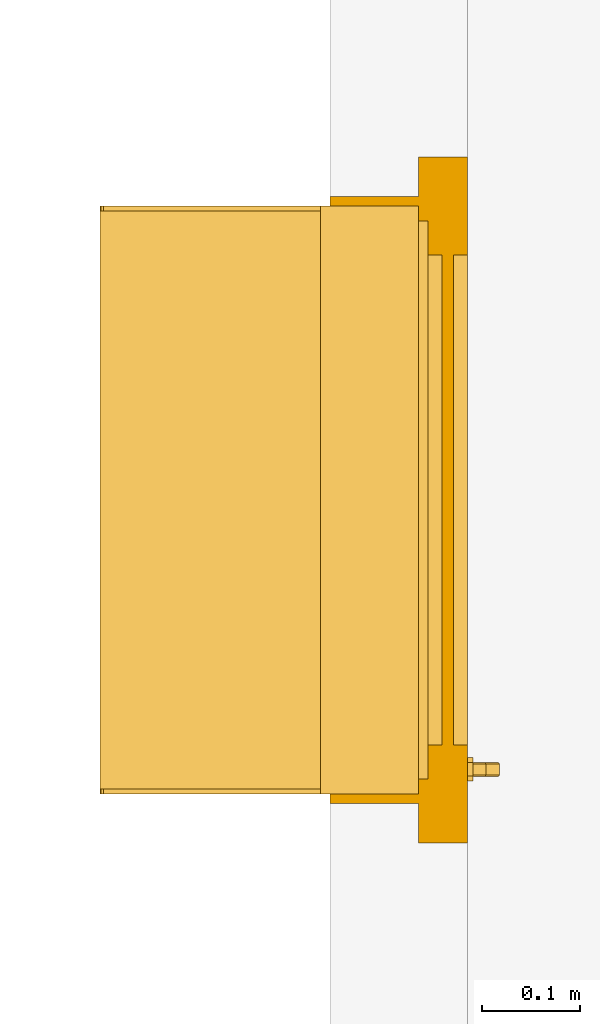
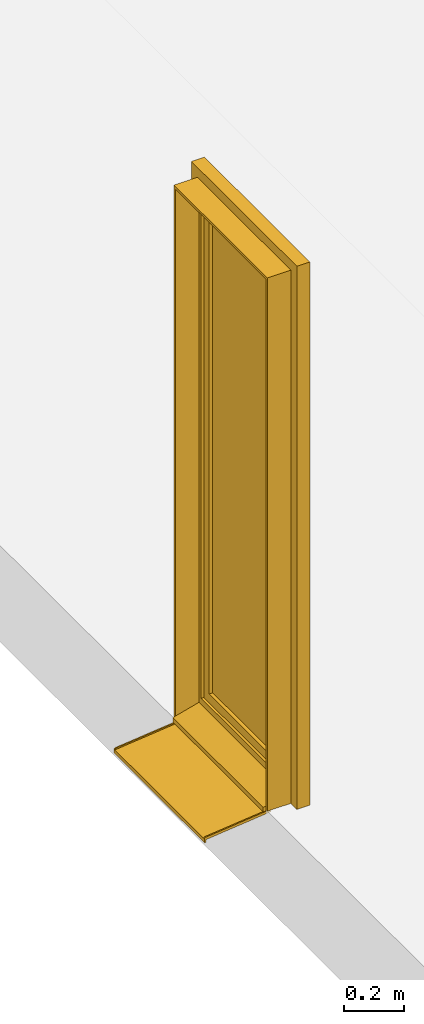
# One storey, part 7 of 7: 1 window.
"""IFC2X3 building model written with IfcOpenShell, lengths in centimetres."""

from ifc_helpers import new_model, entity, si_unit, converted_unit, derived_unit, direction, frame, origin, place, context, subcontext, project, spatial, faceted_brep, source, transform, mapped, material, material_list, type_object, type_shapes, element, save


model = new_model("IFC2X3")

# Units and contexts
model_context = context("Model", 3, precision=0.001, world=origin(), true_north=direction((6.123031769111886e-17, 1.0)))
body_context = subcontext(model_context, "Body", "Model", "MODEL_VIEW")
ifc_project = project(units=[si_unit("LENGTHUNIT", "METRE", prefix="CENTI"), si_unit("AREAUNIT", "SQUARE_METRE"), si_unit("VOLUMEUNIT", "CUBIC_METRE"), converted_unit("PLANEANGLEUNIT", "DEGREE", entity("IfcRatioMeasure", 0.017453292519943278), si_unit("PLANEANGLEUNIT", "RADIAN"), dimensions=[0, 0, 0, 0, 0, 0, 0]), si_unit("MASSUNIT", "GRAM", prefix="KILO"), derived_unit("MASSDENSITYUNIT", [(si_unit("MASSUNIT", "GRAM", prefix="KILO"), 1), (si_unit("LENGTHUNIT", "METRE"), -3)]), derived_unit("MOMENTOFINERTIAUNIT", [(si_unit("LENGTHUNIT", "METRE"), 4)]), si_unit("TIMEUNIT", "SECOND"), si_unit("FREQUENCYUNIT", "HERTZ"), si_unit("THERMODYNAMICTEMPERATUREUNIT", "DEGREE_CELSIUS"), derived_unit("THERMALTRANSMITTANCEUNIT", [(si_unit("MASSUNIT", "GRAM", prefix="KILO"), 1), (si_unit("THERMODYNAMICTEMPERATUREUNIT", "KELVIN"), -1), (si_unit("TIMEUNIT", "SECOND"), -3)]), derived_unit("THERMALCONDUCTANCEUNIT", [(si_unit("MASSUNIT", "GRAM", prefix="KILO"), 1), (si_unit("LENGTHUNIT", "METRE"), 1), (si_unit("THERMODYNAMICTEMPERATUREUNIT", "KELVIN"), -1), (si_unit("TIMEUNIT", "SECOND"), -3)]), derived_unit("VOLUMETRICFLOWRATEUNIT", [(si_unit("LENGTHUNIT", "METRE"), 3), (si_unit("TIMEUNIT", "SECOND"), -1)]), derived_unit("MASSFLOWRATEUNIT", [(si_unit("MASSUNIT", "GRAM", prefix="KILO"), 1), (si_unit("TIMEUNIT", "SECOND"), -1)]), derived_unit("ROTATIONALFREQUENCYUNIT", [(si_unit("TIMEUNIT", "SECOND"), -1)]), si_unit("ELECTRICCURRENTUNIT", "AMPERE"), si_unit("ELECTRICVOLTAGEUNIT", "VOLT"), si_unit("POWERUNIT", "WATT"), si_unit("FORCEUNIT", "NEWTON", prefix="KILO"), si_unit("ILLUMINANCEUNIT", "LUX"), si_unit("LUMINOUSFLUXUNIT", "LUMEN"), si_unit("LUMINOUSINTENSITYUNIT", "CANDELA"), derived_unit("USERDEFINED", [(si_unit("MASSUNIT", "GRAM", prefix="KILO"), -1), (si_unit("LENGTHUNIT", "METRE"), -2), (si_unit("TIMEUNIT", "SECOND"), 3), (si_unit("LUMINOUSFLUXUNIT", "LUMEN"), 1)]), derived_unit("USERDEFINED", [(si_unit("MASSUNIT", "GRAM", prefix="KILO"), 1), (si_unit("LENGTHUNIT", "METRE"), 3), (si_unit("TIMEUNIT", "SECOND"), -3), (si_unit("ELECTRICCURRENTUNIT", "AMPERE"), -2)]), derived_unit("USERDEFINED", [(si_unit("LENGTHUNIT", "METRE"), 2), (si_unit("TIMEUNIT", "SECOND"), -2)]), derived_unit("SOUNDPOWERUNIT", [(si_unit("MASSUNIT", "GRAM", prefix="KILO"), 1), (si_unit("LENGTHUNIT", "METRE"), 2), (si_unit("TIMEUNIT", "SECOND"), -3)]), derived_unit("SOUNDPRESSUREUNIT", [(si_unit("MASSUNIT", "GRAM", prefix="KILO"), 1), (si_unit("LENGTHUNIT", "METRE"), -1), (si_unit("TIMEUNIT", "SECOND"), -2)]), derived_unit("LINEARVELOCITYUNIT", [(si_unit("LENGTHUNIT", "METRE"), 1), (si_unit("TIMEUNIT", "SECOND"), -1)]), si_unit("PRESSUREUNIT", "PASCAL"), derived_unit("USERDEFINED", [(si_unit("LENGTHUNIT", "METRE"), -2), (si_unit("MASSUNIT", "GRAM", prefix="KILO"), 1), (si_unit("TIMEUNIT", "SECOND"), -2)]), derived_unit("LINEARFORCEUNIT", [(si_unit("MASSUNIT", "GRAM", prefix="KILO"), 1), (si_unit("LENGTHUNIT", "METRE"), 1), (si_unit("TIMEUNIT", "SECOND"), -2), (si_unit("LENGTHUNIT", "METRE"), -1)]), derived_unit("PLANARFORCEUNIT", [(si_unit("MASSUNIT", "GRAM", prefix="KILO"), 1), (si_unit("LENGTHUNIT", "METRE"), 1), (si_unit("TIMEUNIT", "SECOND"), -2), (si_unit("LENGTHUNIT", "METRE"), -2)]), derived_unit("SPECIFICHEATCAPACITYUNIT", [(si_unit("LENGTHUNIT", "METRE"), 2), (si_unit("TIMEUNIT", "SECOND"), -2), (si_unit("THERMODYNAMICTEMPERATUREUNIT", "KELVIN"), -1)]), derived_unit("VAPORPERMEABILITYUNIT", [(si_unit("TIMEUNIT", "SECOND"), 1), (si_unit("LENGTHUNIT", "METRE"), -1)]), derived_unit("DYNAMICVISCOSITYUNIT", [(si_unit("MASSUNIT", "GRAM", prefix="KILO"), 1), (si_unit("LENGTHUNIT", "METRE"), -1), (si_unit("TIMEUNIT", "SECOND"), -1)]), derived_unit("THERMALEXPANSIONCOEFFICIENTUNIT", [(si_unit("THERMODYNAMICTEMPERATUREUNIT", "KELVIN"), -1)])], contexts=[model_context])

# Site, building, storey
site_placement = place(None, origin())
site = spatial("IfcSite", under=ifc_project, at=site_placement, Name="Default", CompositionType="ELEMENT")
building_placement = place(site_placement, origin())
building = spatial("IfcBuilding", under=site, at=building_placement, CompositionType="ELEMENT")
storey_placement = place(building_placement, origin())
storey = spatial("IfcBuildingStorey", under=building, at=storey_placement, Name="1_Rez-de-chaussée", CompositionType="ELEMENT", Elevation=0.0)

# Window
ifc_material_1 = material(Name="Fenêtre - Poignée")
ifc_material_2 = material(Name="Fenêtre - Appui")
ifc_material_3 = material(Name="Fenêtre - Vitrage")
ifc_material_4 = material(Name="Fenêtre - Cadre")
ifc_material_list = material_list([ifc_material_1, ifc_material_2, ifc_material_3, ifc_material_4])
window_style = type_object("IfcWindowStyle", Name="1 Vantail - Droit:0.60 m x 2.15 m", ConstructionType="NOTDEFINED", OperationType="NOTDEFINED", ParameterTakesPrecedence=False, Sizeable=False, material=ifc_material_list)
shared_shape = source(origin(), body_context, "Body", "Brep", [
    faceted_brep([(8.064600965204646, -68.60000000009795, 69.58923009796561), (8.203392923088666, -68.60000000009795, 69.45043814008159), (8.203392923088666, -68.60000000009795, 68.31906729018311), (8.066769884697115, -68.60000000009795, 68.18244425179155), (6.933230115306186, -68.60000000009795, 68.18244425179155), (6.796607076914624, -68.60000000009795, 68.31906729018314), (6.796607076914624, -68.60000000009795, 69.45043814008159), (6.935399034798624, -68.60000000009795, 69.58923009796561), (8.064600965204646, -69.89135488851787, 69.58923009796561), (8.203392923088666, -69.83386537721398, 69.45043814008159), (8.203392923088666, -71.16460096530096, 68.11970255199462), (8.203392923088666, -71.16460096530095, 59.3858371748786), (8.203392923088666, -70.0332301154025, 59.3858371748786), (8.203392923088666, -70.03323011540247, 67.65107340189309), (8.203392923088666, -69.36523622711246, 68.31906729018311), (8.066769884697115, -69.30864511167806, 68.18244425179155), (6.933230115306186, -69.30864511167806, 68.18244425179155), (6.796607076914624, -69.36523622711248, 68.31906729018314), (6.796607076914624, -70.03323011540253, 67.6510734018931), (6.796607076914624, -70.03323011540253, 59.3858371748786), (6.796607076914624, -71.16460096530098, 59.3858371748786), (6.796607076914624, -71.16460096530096, 68.11970255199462), (6.796607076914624, -69.83386537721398, 69.45043814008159), (6.935399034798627, -69.89135488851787, 69.58923009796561), (8.064600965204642, -71.30339292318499, 68.17719206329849), (8.066769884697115, -69.89660707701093, 67.59448228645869), (6.933230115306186, -69.89660707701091, 67.59448228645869), (6.935399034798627, -71.30339292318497, 68.17719206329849), (8.064600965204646, -71.303392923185, 59.3858371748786), (6.935399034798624, -71.303392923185, 59.3858371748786), (6.933230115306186, -69.89660707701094, 59.3858371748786), (8.066769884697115, -69.89660707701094, 59.3858371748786)], [[[0, 1, 2, 3, 4, 5, 6, 7]], [[1, 0, 8, 9]], [[2, 1, 9, 10, 11, 12, 13, 14]], [[3, 2, 14, 15]], [[4, 3, 15, 16]], [[5, 4, 16, 17]], [[6, 5, 17, 18, 19, 20, 21, 22]], [[7, 6, 22, 23]], [[0, 7, 23, 8]], [[9, 8, 24, 10]], [[15, 14, 13, 25]], [[16, 15, 25, 26]], [[17, 16, 26, 18]], [[23, 22, 21, 27]], [[8, 23, 27, 24]], [[28, 29, 20, 19, 30, 31, 12, 11]], [[10, 24, 28, 11]], [[25, 13, 12, 31]], [[26, 25, 31, 30]], [[18, 26, 30, 19]], [[27, 21, 20, 29]], [[24, 27, 29, 28]]]),
    faceted_brep([(8.200000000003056, -68.60000000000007, 71.38583717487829), (6.800000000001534, -68.60000000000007, 71.38583717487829), (6.300000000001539, -68.60000000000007, 70.8858371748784), (6.300000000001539, -68.60000000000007, 63.88583717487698), (6.800000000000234, -68.60000000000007, 63.38583717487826), (8.200000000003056, -68.60000000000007, 63.38583717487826), (8.700000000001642, -68.60000000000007, 63.885837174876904), (8.700000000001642, -68.60000000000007, 70.8858371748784), (8.200000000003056, -68.0, 71.38583717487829), (8.700000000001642, -68.0, 70.8858371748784), (8.700000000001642, -68.0, 63.885837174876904), (8.200000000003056, -68.0, 63.38583717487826), (6.800000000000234, -68.0, 63.38583717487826), (6.300000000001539, -68.0, 63.88583717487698), (6.300000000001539, -68.0, 70.8858371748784), (6.800000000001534, -68.0, 71.38583717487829)], [[[0, 1, 2, 3, 4, 5, 6, 7]], [[8, 9, 10, 11, 12, 13, 14, 15]], [[1, 0, 8, 15]], [[2, 1, 15, 14]], [[3, 2, 14, 13]], [[4, 3, 13, 12]], [[5, 4, 12, 11]], [[6, 5, 11, 10]], [[7, 6, 10, 9]], [[0, 7, 9, 8]]]),
    faceted_brep([(65.0, -30.49999999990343, 3.731200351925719), (65.0, -55.499999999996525, 6.3588062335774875), (65.0, -55.499999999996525, 7.38583717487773), (65.0, -56.0, 7.38583717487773), (65.0, -56.0, 5.885837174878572), (65.0, -31.0, 3.2582312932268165), (65.0, -31.0, 2.2281808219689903), (65.0, -30.499999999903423, 2.1756287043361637), (5.0, -30.499999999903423, 3.731200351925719), (5.0, -30.499999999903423, 2.1756287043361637), (5.0, -31.0, 2.2281808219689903), (5.0, -31.0, 3.2582312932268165), (5.0, -56.0, 5.885837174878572), (5.0, -56.0, 7.38583717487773), (5.0, -55.49999999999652, 7.38583717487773), (5.0, -55.49999999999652, 6.3588062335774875)], [[[0, 1, 2, 3, 4, 5, 6, 7]], [[8, 9, 10, 11, 12, 13, 14, 15]], [[1, 0, 8, 15]], [[2, 1, 15, 14]], [[3, 2, 14, 13]], [[4, 3, 13, 12]], [[5, 4, 12, 11]], [[6, 5, 11, 10]], [[7, 6, 10, 9]], [[0, 7, 9, 8]]]),
    faceted_brep([(5.0, -30.499999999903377, 3.8737928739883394), (5.0, -30.499999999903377, 3.731200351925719), (5.0, -55.49999999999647, 6.3588062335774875), (5.0, -55.49999999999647, 6.861560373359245), (5.0, -30.85818861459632, 4.271601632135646), (5.0, -30.602742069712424, 4.14144511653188), (5.500000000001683, -55.49999999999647, 6.861560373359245), (5.500000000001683, -55.49999999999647, 6.3588062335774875), (5.500000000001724, -30.499999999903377, 3.731200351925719), (5.500000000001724, -30.499999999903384, 3.8737928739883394), (5.500000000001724, -30.602742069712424, 4.14144511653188), (5.500000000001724, -30.85818861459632, 4.271601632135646)], [[[0, 1, 2, 3, 4, 5]], [[6, 7, 8, 9, 10, 11]], [[2, 1, 8, 7]], [[3, 2, 7, 6]], [[4, 3, 6, 11]], [[4, 11, 10, 5]], [[10, 9, 0, 5]], [[1, 0, 9, 8]]]),
    faceted_brep([(64.50000000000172, -30.499999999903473, 3.8737928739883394), (64.50000000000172, -30.499999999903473, 3.731200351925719), (64.50000000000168, -55.499999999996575, 6.3588062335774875), (64.50000000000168, -55.499999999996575, 6.861560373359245), (64.50000000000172, -30.858188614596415, 4.271601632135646), (64.50000000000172, -30.60274206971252, 4.14144511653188), (65.0, -55.499999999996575, 6.861560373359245), (65.0, -55.499999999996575, 6.3588062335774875), (65.0, -30.499999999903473, 3.731200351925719), (65.0, -30.499999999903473, 3.8737928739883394), (65.0, -30.60274206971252, 4.14144511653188), (65.0, -30.858188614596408, 4.271601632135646)], [[[0, 1, 2, 3, 4, 5]], [[6, 7, 8, 9, 10, 11]], [[2, 1, 8, 7]], [[3, 2, 7, 6]], [[4, 3, 6, 11]], [[4, 11, 10, 5]], [[10, 9, 0, 5]], [[1, 0, 9, 8]]]),
    faceted_brep([(10.0, -65.40000000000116, 17.38583717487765), (10.0, -65.40000000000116, 217.38583717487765), (60.0, -65.40000000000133, 217.38583717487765), (60.0, -65.40000000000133, 17.38583717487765), (10.0, -66.60000000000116, 17.38583717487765), (10.0, -66.60000000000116, 217.38583717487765), (60.0, -66.60000000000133, 217.38583717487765), (60.0, -66.60000000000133, 17.38583717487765)], [[[0, 1, 2, 3]], [[1, 0, 4, 5]], [[3, 2, 6, 7]], [[0, 3, 7, 4]], [[4, 7, 6, 5]], [[2, 1, 5, 6]]]),
    faceted_brep([(10.0, -64.0, 217.38583717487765), (10.0, -68.0, 217.38583717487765), (10.0, -68.0, 17.38583717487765), (10.0, -64.0, 17.38583717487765), (60.0, -68.0, 17.38583717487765), (60.0, -64.0, 17.38583717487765), (60.0, -68.0, 217.3858371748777), (65.0, -68.0, 12.385837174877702), (65.0, -68.0, 222.3858371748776), (5.0, -68.0, 222.3858371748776), (5.0, -68.0, 12.385837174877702), (60.0, -64.0, 217.38583717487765), (5.0, -64.0, 12.385837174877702), (5.0, -64.0, 222.3858371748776), (65.0, -64.0, 222.38583717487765), (65.0, -64.0, 12.385837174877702)], [[[0, 1, 2, 3]], [[3, 2, 4, 5]], [[2, 1, 6, 4], [7, 8, 9, 10]], [[5, 4, 6, 11]], [[5, 11, 0, 3], [12, 13, 14, 15]], [[9, 13, 12, 10]], [[10, 12, 15, 7]], [[7, 15, 14, 8]], [[11, 6, 1, 0]], [[8, 14, 13, 9]]], outer=[[True], [True], [False, True], [True], [False, True], [True], [True], [True], [True], [True]]),
    faceted_brep([(0.0, -68.0, 7.38583717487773), (0.0, -63.0, 7.38583717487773), (5.0, -63.0, 7.38583717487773), (5.0, -54.0, 7.38583717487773), (65.0, -54.0, 7.385837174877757), (65.0, -63.0, 7.38583717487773), (70.0, -63.0, 7.38583717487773), (70.0, -68.0, 7.38583717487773), (0.0, -68.0, 227.38583717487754), (0.0, -63.0, 227.3858371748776), (70.0, -63.0, 227.38583717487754), (65.0, -63.0, 11.323451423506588), (5.0, -63.0, 11.323451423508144), (6.500000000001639, -63.0, 220.88583717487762), (6.500000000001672, -63.0, 13.885837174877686), (63.5000000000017, -63.0, 13.885837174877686), (63.500000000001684, -63.0, 220.88583717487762), (5.0, -53.0, 8.643959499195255), (5.0, -53.0, 6.885837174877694), (5.0, -54.0, 6.885837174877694), (65.0, -54.0, 6.885837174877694), (65.0, -53.0, 6.885837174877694), (65.0, -53.0, 8.643959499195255), (70.0, -68.0, 227.38583717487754), (65.0, -68.0, 222.3858371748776), (65.0, -68.0, 12.38583717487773), (5.0, -68.0, 12.38583717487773), (5.0, -68.0, 222.3858371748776), (6.500000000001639, -64.0, 220.88583717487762), (6.500000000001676, -64.0, 13.885837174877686), (63.5000000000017, -64.0, 13.885837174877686), (63.500000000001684, -64.0, 220.88583717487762), (65.0, -64.0, 222.3858371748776), (5.0, -64.0, 222.3858371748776), (5.0, -64.0, 12.38583717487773), (65.0, -64.0, 12.38583717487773)], [[[0, 1, 2, 3, 4, 5, 6, 7]], [[1, 0, 8, 9]], [[1, 9, 10, 6, 5, 11, 12, 2], [13, 14, 15, 16]], [[12, 17, 18, 19, 3, 2]], [[3, 19, 20, 4]], [[4, 20, 21, 22, 11, 5]], [[6, 10, 23, 7]], [[0, 7, 23, 8], [24, 25, 26, 27]], [[13, 28, 29, 14]], [[29, 30, 15, 14]], [[31, 16, 15, 30]], [[17, 12, 11, 22]], [[32, 33, 34, 35], [28, 31, 30, 29]], [[34, 33, 27, 26]], [[26, 25, 35, 34]], [[24, 32, 35, 25]], [[18, 17, 22, 21]], [[19, 18, 21, 20]], [[13, 16, 31, 28]], [[33, 32, 24, 27]], [[10, 9, 8, 23]]]),
    faceted_brep([(5.0, -54.0, 7.38583717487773), (5.0, -63.0, 7.38583717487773), (4.0, -63.0, 7.38583717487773), (4.0, -54.0, 7.38583717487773), (5.0, -54.0, 222.3858371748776), (5.0, -63.0, 222.3858371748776), (65.0, -63.0, 222.3858371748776), (65.0, -63.0, 7.385837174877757), (66.0, -63.0, 7.38583717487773), (66.0, -63.0, 223.3858371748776), (4.0, -63.0, 223.38583717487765), (4.0, -54.0, 223.38583717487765), (66.0, -54.0, 223.3858371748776), (66.0, -54.0, 7.385837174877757), (65.0, -54.0, 7.38583717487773), (65.0, -54.0, 222.3858371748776)], [[[0, 1, 2, 3]], [[1, 0, 4, 5]], [[2, 1, 5, 6, 7, 8, 9, 10]], [[3, 2, 10, 11]], [[0, 3, 11, 12, 13, 14, 15, 4]], [[6, 15, 14, 7]], [[14, 13, 8, 7]], [[12, 9, 8, 13]], [[5, 4, 15, 6]], [[11, 10, 9, 12]]]),
])
type_shapes(window_style, [shared_shape])
window_placement = place(storey_placement, frame((-754.0684437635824, -316.35335412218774, -7.38583717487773), z_axis=(0.0, 0.0, 1.0), x_axis=(0.0, 1.0, 0.0)))
element("IfcWindow", 1, at=window_placement, inside=storey, type_object=window_style, material=ifc_material_list, Name="1 Vantail - Droit:0.60 m x 2.15 m", ObjectType="1 Vantail - Droit:0.60 m x 2.15 m", OverallHeight=228.00000000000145, OverallWidth=70.00000000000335, context=body_context, shape_type="MappedRepresentation", body=[
    mapped(shared_shape, transform((0.0, 0.0, 0.0), scale=1.0)),
])

save(model, "model.ifc")
